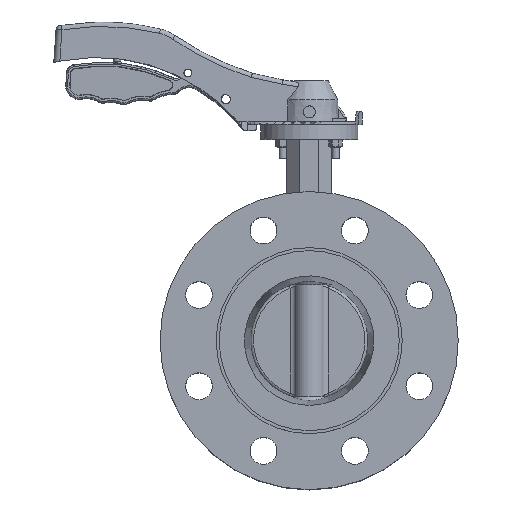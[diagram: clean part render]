
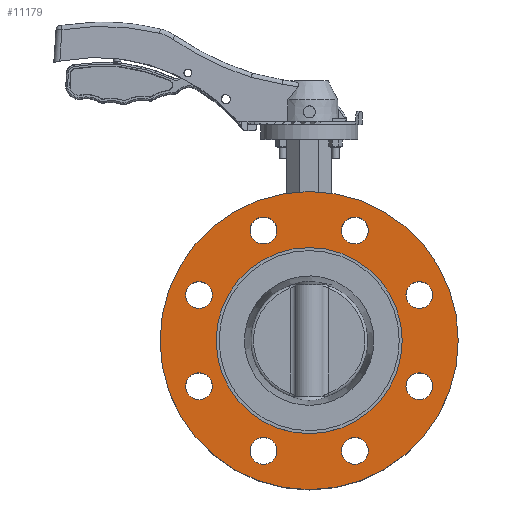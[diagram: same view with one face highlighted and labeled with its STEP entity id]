
A CAD part, top view. The second image highlights one B-rep face of the part: STEP entity #11179.
In plain terms, the highlighted planar face has unit normal (0, 0, 1).
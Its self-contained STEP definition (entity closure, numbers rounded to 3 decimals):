
#724 = DIRECTION ( 'NONE',  ( 0., 0., -1. ) ) ;
#1347 = CARTESIAN_POINT ( 'NONE',  ( 50.182, 29.022, 54. ) ) ;
#3020 = ORIENTED_EDGE ( 'NONE', *, *, #34708, .T. ) ;
#3070 = CARTESIAN_POINT ( 'NONE',  ( -54.343, -75.503, 54. ) ) ;
#3875 = FACE_BOUND ( 'NONE', #14776, .T. ) ;
#4121 = CARTESIAN_POINT ( 'NONE',  ( -23.728, -1.593, 54. ) ) ;
#4508 = FACE_BOUND ( 'NONE', #52328, .T. ) ;
#5107 = ORIENTED_EDGE ( 'NONE', *, *, #31287, .T. ) ;
#6496 = CARTESIAN_POINT ( 'NONE',  ( 38.672, -1.593, 54. ) ) ;
#6520 = DIRECTION ( 'NONE',  ( 0., 0., -1. ) ) ;
#6855 = DIRECTION ( 'NONE',  ( -1., 0., 0. ) ) ;
#7028 = ORIENTED_EDGE ( 'NONE', *, *, #16932, .T. ) ;
#8944 = EDGE_LOOP ( 'NONE', ( #5107 ) ) ;
#9190 = FACE_OUTER_BOUND ( 'NONE', #37157, .T. ) ;
#10658 = DIRECTION ( 'NONE',  ( 0., 0., -1. ) ) ;
#11179 = ADVANCED_FACE ( 'NONE', ( #37939, #9190, #3875, #56705, #52057, #4508, #38548, #23659, #43295, #42665 ), #61675, .F. ) ;
#11194 = CARTESIAN_POINT ( 'NONE',  ( 6.887, 72.317, 54. ) ) ;
#12554 = CIRCLE ( 'NONE', #30588, 9. ) ;
#12804 = DIRECTION ( 'NONE',  ( 0., 0., -1. ) ) ;
#12871 = DIRECTION ( 'NONE',  ( 1., 0., 0. ) ) ;
#13573 = DIRECTION ( 'NONE',  ( 0., 0., -1. ) ) ;
#14072 = ORIENTED_EDGE ( 'NONE', *, *, #46504, .T. ) ;
#14435 = CIRCLE ( 'NONE', #46379, 9. ) ;
#14776 = EDGE_LOOP ( 'NONE', ( #24313 ) ) ;
#15323 = DIRECTION ( 'NONE',  ( -1., 0., 0. ) ) ;
#15682 = DIRECTION ( 'NONE',  ( -1., 0., 0. ) ) ;
#16812 = VERTEX_POINT ( 'NONE', #22503 ) ;
#16849 = ORIENTED_EDGE ( 'NONE', *, *, #29487, .T. ) ;
#16932 = EDGE_CURVE ( 'NONE', #53126, #53126, #61389, .T. ) ;
#17304 = CARTESIAN_POINT ( 'NONE',  ( -23.728, -1.593, 54. ) ) ;
#17806 = DIRECTION ( 'NONE',  ( 0., 0., -1. ) ) ;
#18145 = EDGE_LOOP ( 'NONE', ( #3020 ) ) ;
#19212 = CARTESIAN_POINT ( 'NONE',  ( -86.128, -1.593, 54. ) ) ;
#21584 = DIRECTION ( 'NONE',  ( 0., 0., -1. ) ) ;
#21867 = CARTESIAN_POINT ( 'NONE',  ( -63.343, -75.503, 54. ) ) ;
#22495 = CIRCLE ( 'NONE', #30452, 100. ) ;
#22503 = CARTESIAN_POINT ( 'NONE',  ( -2.113, -75.503, 54. ) ) ;
#23659 = FACE_BOUND ( 'NONE', #45027, .T. ) ;
#24313 = ORIENTED_EDGE ( 'NONE', *, *, #36534, .T. ) ;
#24333 = CIRCLE ( 'NONE', #54233, 9. ) ;
#25367 = EDGE_CURVE ( 'NONE', #43122, #43122, #55146, .T. ) ;
#26861 = EDGE_LOOP ( 'NONE', ( #59461 ) ) ;
#27551 = AXIS2_PLACEMENT_3D ( 'NONE', #56262, #12804, #50648 ) ;
#27689 = EDGE_LOOP ( 'NONE', ( #14072 ) ) ;
#28279 = AXIS2_PLACEMENT_3D ( 'NONE', #17304, #49506, #31370 ) ;
#29487 = EDGE_CURVE ( 'NONE', #58990, #58990, #51632, .T. ) ;
#29688 = VERTEX_POINT ( 'NONE', #49029 ) ;
#30452 = AXIS2_PLACEMENT_3D ( 'NONE', #4121, #55730, #12871 ) ;
#30588 = AXIS2_PLACEMENT_3D ( 'NONE', #41567, #17806, #6855 ) ;
#31287 = EDGE_CURVE ( 'NONE', #35257, #35257, #50799, .T. ) ;
#31370 = DIRECTION ( 'NONE',  ( 1., 0., 0. ) ) ;
#32918 = DIRECTION ( 'NONE',  ( -1., 0., 0. ) ) ;
#34708 = EDGE_CURVE ( 'NONE', #29688, #29688, #14435, .T. ) ;
#34717 = EDGE_CURVE ( 'NONE', #34941, #34941, #22495, .T. ) ;
#34941 = VERTEX_POINT ( 'NONE', #35570 ) ;
#35257 = VERTEX_POINT ( 'NONE', #39631 ) ;
#35570 = CARTESIAN_POINT ( 'NONE',  ( 76.272, -1.593, 54. ) ) ;
#35743 = ORIENTED_EDGE ( 'NONE', *, *, #34717, .T. ) ;
#36390 = CARTESIAN_POINT ( 'NONE',  ( 50.182, -32.208, 54. ) ) ;
#36534 = EDGE_CURVE ( 'NONE', #39336, #39336, #24333, .T. ) ;
#37157 = EDGE_LOOP ( 'NONE', ( #35743 ) ) ;
#37939 = FACE_BOUND ( 'NONE', #26861, .T. ) ;
#38252 = DIRECTION ( 'NONE',  ( 1., 0., 0. ) ) ;
#38548 = FACE_BOUND ( 'NONE', #8944, .T. ) ;
#39336 = VERTEX_POINT ( 'NONE', #54670 ) ;
#39631 = CARTESIAN_POINT ( 'NONE',  ( -106.638, -32.208, 54. ) ) ;
#41567 = CARTESIAN_POINT ( 'NONE',  ( 6.887, -75.503, 54. ) ) ;
#41961 = CARTESIAN_POINT ( 'NONE',  ( -54.343, 72.317, 54. ) ) ;
#42665 = FACE_BOUND ( 'NONE', #56521, .T. ) ;
#43122 = VERTEX_POINT ( 'NONE', #6496 ) ;
#43295 = FACE_BOUND ( 'NONE', #18145, .T. ) ;
#44424 = AXIS2_PLACEMENT_3D ( 'NONE', #11194, #6520, #15323 ) ;
#45027 = EDGE_LOOP ( 'NONE', ( #55693 ) ) ;
#46080 = DIRECTION ( 'NONE',  ( -1., 0., 0. ) ) ;
#46379 = AXIS2_PLACEMENT_3D ( 'NONE', #41961, #56947, #32918 ) ;
#46504 = EDGE_CURVE ( 'NONE', #16812, #16812, #12554, .T. ) ;
#46927 = ORIENTED_EDGE ( 'NONE', *, *, #60370, .T. ) ;
#47926 = EDGE_LOOP ( 'NONE', ( #16849 ) ) ;
#49029 = CARTESIAN_POINT ( 'NONE',  ( -63.343, 72.317, 54. ) ) ;
#49506 = DIRECTION ( 'NONE',  ( 0., 0., 1. ) ) ;
#50648 = DIRECTION ( 'NONE',  ( -1., 0., 0. ) ) ;
#50799 = CIRCLE ( 'NONE', #56795, 9. ) ;
#51087 = DIRECTION ( 'NONE',  ( 0., 0., -1. ) ) ;
#51632 = CIRCLE ( 'NONE', #59532, 9. ) ;
#51887 = CARTESIAN_POINT ( 'NONE',  ( -2.113, 72.317, 54. ) ) ;
#52057 = FACE_BOUND ( 'NONE', #27689, .T. ) ;
#52328 = EDGE_LOOP ( 'NONE', ( #46927 ) ) ;
#53126 = VERTEX_POINT ( 'NONE', #51887 ) ;
#53520 = CARTESIAN_POINT ( 'NONE',  ( -97.638, -32.208, 54. ) ) ;
#54058 = CARTESIAN_POINT ( 'NONE',  ( 41.182, -32.208, 54. ) ) ;
#54233 = AXIS2_PLACEMENT_3D ( 'NONE', #1347, #724, #59137 ) ;
#54670 = CARTESIAN_POINT ( 'NONE',  ( 41.182, 29.022, 54. ) ) ;
#54839 = AXIS2_PLACEMENT_3D ( 'NONE', #19212, #13573, #38252 ) ;
#55146 = CIRCLE ( 'NONE', #28279, 62.4 ) ;
#55252 = VERTEX_POINT ( 'NONE', #60497 ) ;
#55552 = VERTEX_POINT ( 'NONE', #21867 ) ;
#55561 = CIRCLE ( 'NONE', #59528, 9. ) ;
#55693 = ORIENTED_EDGE ( 'NONE', *, *, #57991, .T. ) ;
#55730 = DIRECTION ( 'NONE',  ( 0., 0., 1. ) ) ;
#56262 = CARTESIAN_POINT ( 'NONE',  ( -97.638, 29.022, 54. ) ) ;
#56375 = CIRCLE ( 'NONE', #27551, 9. ) ;
#56521 = EDGE_LOOP ( 'NONE', ( #7028 ) ) ;
#56705 = FACE_BOUND ( 'NONE', #47926, .T. ) ;
#56795 = AXIS2_PLACEMENT_3D ( 'NONE', #53520, #10658, #15682 ) ;
#56947 = DIRECTION ( 'NONE',  ( 0., 0., -1. ) ) ;
#57991 = EDGE_CURVE ( 'NONE', #55252, #55252, #56375, .T. ) ;
#58990 = VERTEX_POINT ( 'NONE', #54058 ) ;
#59137 = DIRECTION ( 'NONE',  ( -1., 0., 0. ) ) ;
#59461 = ORIENTED_EDGE ( 'NONE', *, *, #25367, .F. ) ;
#59528 = AXIS2_PLACEMENT_3D ( 'NONE', #3070, #21584, #59614 ) ;
#59532 = AXIS2_PLACEMENT_3D ( 'NONE', #36390, #51087, #46080 ) ;
#59614 = DIRECTION ( 'NONE',  ( -1., 0., 0. ) ) ;
#60370 = EDGE_CURVE ( 'NONE', #55552, #55552, #55561, .T. ) ;
#60497 = CARTESIAN_POINT ( 'NONE',  ( -106.638, 29.022, 54. ) ) ;
#61389 = CIRCLE ( 'NONE', #44424, 9. ) ;
#61675 = PLANE ( 'NONE',  #54839 ) ;
